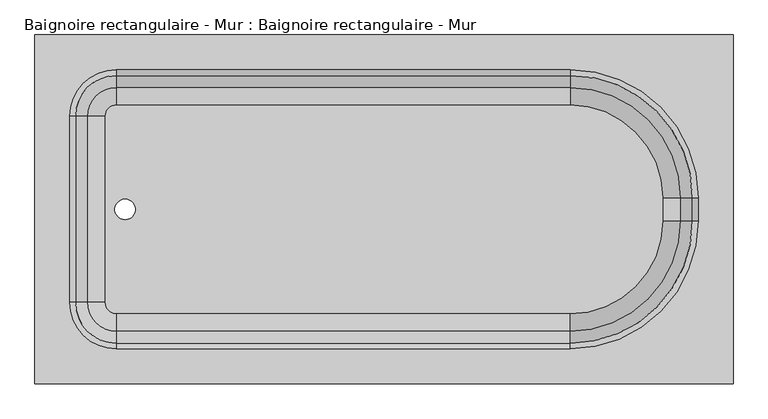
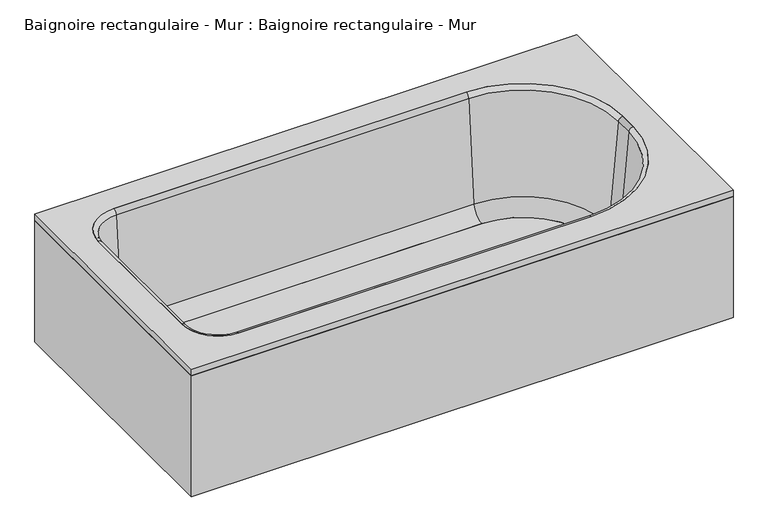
"""IFC4 building model written with IfcOpenShell, lengths in millimetres: flow terminal geometry, Baignoire rectangulaire - Mur : Baignoire rectangulaire - Mur."""

import ifcopenshell
import ifcopenshell.guid

model = None  # the IFC model being written
_history = None  # IfcOwnerHistory: only IFC2X3 demands one
_inside = {}  # id of a spatial element -> (the spatial element, [elements in it])
_under = {}  # id of a project, library or spatial element -> (it, [spatial elements below it])
_declared = {}  # id of a project -> (the project, [libraries it declares])
_typed = {}  # id of a type object -> (the type object, [elements of that type])
_made_of = {}  # id of a material, layer set ... -> (it, [elements and type objects made of it])


def new_model(schema):
    """Start an empty IFC model of exactly this schema.

    Asked for "IFC4X3", IfcOpenShell would pick the latest addendum, in which some entities
    have other attributes; the version numbers below select the first issue.
    IFC2X3 requires an IfcOwnerHistory on every rooted entity: one is made here for all.
    """
    global model, _history
    if schema == "IFC4X3":
        model = ifcopenshell.file(schema_version=(4, 3, 0, 0))
    else:
        model = ifcopenshell.file(schema=schema)
    _inside.clear()
    _under.clear()
    _declared.clear()
    _typed.clear()
    _made_of.clear()
    _history = None
    if model.schema == "IFC2X3":
        org = make("IfcOrganization", Name="unknown")
        user = make(
            "IfcPersonAndOrganization",
            ThePerson=make("IfcPerson", FamilyName="unknown"),
            TheOrganization=org,
        )
        app = make(
            "IfcApplication",
            ApplicationDeveloper=org,
            Version="unknown",
            ApplicationFullName="unknown",
            ApplicationIdentifier="unknown",
        )
        _history = make(
            "IfcOwnerHistory",
            OwningUser=user,
            OwningApplication=app,
            ChangeAction="ADDED",
            CreationDate=0,
        )
    return model


def make(cls, **values):
    """One entity of the class cls with the attributes given. An attribute that is None is left unset."""
    return model.create_entity(
        cls, **{name: value for name, value in values.items() if value is not None}
    )


def rooted(cls, **values):
    """An entity with a GlobalId (a new one), such as an element, a storey or a relation."""
    return make(cls, GlobalId=ifcopenshell.guid.new(), OwnerHistory=_history, **values)


def si_unit(unit_type, name, prefix=None):
    """IfcSIUnit, for example si_unit("LENGTHUNIT", "METRE", prefix="MILLI")."""
    return make("IfcSIUnit", UnitType=unit_type, Prefix=prefix, Name=name)


def assignment(units):
    """IfcUnitAssignment: the units of a project."""
    return None if units is None else make("IfcUnitAssignment", Units=units)


def point(xyz):
    """IfcCartesianPoint."""
    return None if xyz is None else make("IfcCartesianPoint", Coordinates=xyz)


def direction(xyz):
    """IfcDirection."""
    return None if xyz is None else make("IfcDirection", DirectionRatios=xyz)


def frame(location, z_axis=None, x_axis=None):
    """IfcAxis2Placement3D, a coordinate frame: its origin and axes. An axis left out is left unset."""
    return make(
        "IfcAxis2Placement3D",
        Location=point(location),
        Axis=direction(z_axis),
        RefDirection=direction(x_axis),
    )


def frame_2d(location, x_axis=None):
    """IfcAxis2Placement2D, a coordinate frame in the plane: its origin and x axis."""
    return make(
        "IfcAxis2Placement2D", Location=point(location), RefDirection=direction(x_axis)
    )


def origin():
    """The frame at (0, 0, 0) with its axes left unset."""
    return frame((0.0, 0.0, 0.0))


def origin_with_axes():
    """The frame at (0, 0, 0) with the z axis (0, 0, 1) and the x axis (1, 0, 0) written out."""
    return frame((0.0, 0.0, 0.0), z_axis=(0.0, 0.0, 1.0), x_axis=(1.0, 0.0, 0.0))


def place(relative_to, where):
    """IfcLocalPlacement: puts the frame where relative to a parent placement (None: the world)."""
    return make(
        "IfcLocalPlacement", PlacementRelTo=relative_to, RelativePlacement=where
    )


def context(
    kind, dimensions, precision=None, world=None, true_north=None, identifier=None
):
    """IfcGeometricRepresentationContext, for example the 3D "Model" context."""
    return make(
        "IfcGeometricRepresentationContext",
        ContextIdentifier=identifier,
        ContextType=kind,
        CoordinateSpaceDimension=dimensions,
        Precision=precision,
        WorldCoordinateSystem=world,
        TrueNorth=true_north,
    )


def project(units=None, contexts=None):
    """IfcProject with its units and contexts."""
    return rooted(
        "IfcProject",
        Name="project",
        RepresentationContexts=contexts,
        UnitsInContext=assignment(units),
    )


def spatial(cls, under=None, at=None, **own):
    """A site, building, storey or space (cls), placed at a placement, below another one or the project."""
    s = rooted(cls, ObjectPlacement=at, **own)
    if under is not None:
        _under.setdefault(under.id(), (under, []))[1].append(s)
    return s


def polyline(points):
    """IfcPolyline through the points."""
    return make("IfcPolyline", Points=[point(p) for p in points])


def circle_curve(where, radius):
    """IfcCircle in the frame where."""
    return make("IfcCircle", Position=where, Radius=radius)


def ellipse_curve(where, semi_axis1, semi_axis2):
    """IfcEllipse in the frame where."""
    return make(
        "IfcEllipse", Position=where, SemiAxis1=semi_axis1, SemiAxis2=semi_axis2
    )


def trimmed(basis, trim1, trim2, sense, master):
    """IfcTrimmedCurve: the piece of a basis curve between two trims."""
    return make(
        "IfcTrimmedCurve",
        BasisCurve=basis,
        Trim1=trim1,
        Trim2=trim2,
        SenseAgreement=sense,
        MasterRepresentation=master,
    )


def segment(curve, same_sense, transition):
    """IfcCompositeCurveSegment."""
    return make(
        "IfcCompositeCurveSegment",
        Transition=transition,
        SameSense=same_sense,
        ParentCurve=curve,
    )


def composite_curve(segments, self_intersect=None):
    """IfcCompositeCurve: segments joined end to end."""
    return make("IfcCompositeCurve", Segments=segments, SelfIntersect=self_intersect)


def outline(outer, holes=None, kind="AREA"):
    """IfcArbitraryClosedProfileDef: a profile drawn as a closed curve; with holes, ...WithVoids."""
    if holes is None:
        return make("IfcArbitraryClosedProfileDef", ProfileType=kind, OuterCurve=outer)
    return make(
        "IfcArbitraryProfileDefWithVoids",
        ProfileType=kind,
        OuterCurve=outer,
        InnerCurves=holes,
    )


def extrude(swept, where, along, depth):
    """IfcExtrudedAreaSolid: the profile swept, set in the frame where, extruded along a direction by depth."""
    return make(
        "IfcExtrudedAreaSolid",
        SweptArea=swept,
        Position=where,
        ExtrudedDirection=direction(along),
        Depth=depth,
    )


def shape(context_of_items, identifier, shape_type, items):
    """IfcShapeRepresentation: the items that make up one representation, for example the "Body"."""
    return make(
        "IfcShapeRepresentation",
        ContextOfItems=context_of_items,
        RepresentationIdentifier=identifier,
        RepresentationType=shape_type,
        Items=items,
    )


def source(mapping_origin, context_of_items, identifier, shape_type, items):
    """IfcRepresentationMap: a shape defined once, which mapped items show again and again."""
    return make(
        "IfcRepresentationMap",
        MappingOrigin=mapping_origin,
        MappedRepresentation=shape(context_of_items, identifier, shape_type, items),
    )


def transform(
    local_origin,
    x_axis=None,
    y_axis=None,
    z_axis=None,
    scale=None,
    scale2=None,
    scale3=None,
    uniform=True,
):
    """IfcCartesianTransformationOperator3D, or its non-uniform kind. x_axis, y_axis, z_axis: its Axis1, 2, 3."""
    if uniform:
        return make(
            "IfcCartesianTransformationOperator3D",
            Axis1=direction(x_axis),
            Axis2=direction(y_axis),
            LocalOrigin=point(local_origin),
            Scale=scale,
            Axis3=direction(z_axis),
        )
    return make(
        "IfcCartesianTransformationOperator3DnonUniform",
        Axis1=direction(x_axis),
        Axis2=direction(y_axis),
        LocalOrigin=point(local_origin),
        Scale=scale,
        Axis3=direction(z_axis),
        Scale2=scale2,
        Scale3=scale3,
    )


def mapped(mapping_source, mapping_target):
    """IfcMappedItem: shows the shape of a source again, moved by a transform."""
    return make(
        "IfcMappedItem", MappingSource=mapping_source, MappingTarget=mapping_target
    )


def made_of(thing, what):
    """Note that an element or type object is made of a material, layer set ...; save() writes the relation."""
    if what is not None:
        _made_of.setdefault(what.id(), (what, []))[1].append(thing)
    return thing


def element(
    cls,
    number,
    at=None,
    inside=None,
    cuts=None,
    type_object=None,
    material=None,
    context=None,
    identifier="Body",
    shape_type=None,
    held_by="IfcProductDefinitionShape",
    body=None,
    shapes=None,
    **own,
):
    """One element of the class cls, such as IfcWall. Its Tag is "e" and its number.

    at: its placement. inside: the storey or other place that contains it. cuts: it is an
    opening in that element (IfcRelVoidsElement). A single representation is given by context,
    identifier, shape_type and body (its items); several are given by shapes. held_by: the class
    of the entity that holds the representations. save() writes the other relations.
    """
    e = rooted(cls, Tag="e%d" % number, ObjectPlacement=at, **own)
    if body is not None:
        shapes = [shape(context, identifier, shape_type, body)]
    if shapes is not None:
        e.Representation = make(held_by, Representations=shapes)
    if inside is not None:
        _inside.setdefault(inside.id(), (inside, []))[1].append(e)
    if cuts is not None:
        rooted(
            "IfcRelVoidsElement", RelatingBuildingElement=cuts, RelatedOpeningElement=e
        )
    if type_object is not None:
        _typed.setdefault(type_object.id(), (type_object, []))[1].append(e)
    return made_of(e, material)


def aggregate(whole, parts):
    """IfcRelAggregates: a whole, such as a stair, and the parts it consists of."""
    return rooted("IfcRelAggregates", RelatingObject=whole, RelatedObjects=parts)


def save(model, path):
    """Write the relations noted so far, then the file.

    IfcRelAggregates (storeys below a building ...), IfcRelContainedInSpatialStructure (elements
    in a storey), IfcRelDefinesByType, IfcRelAssociatesMaterial and IfcRelDeclares: one each for
    every whole, place, type object, material and project.
    """
    for whole, parts in _under.values():
        aggregate(whole, parts)
    for where, things in _inside.values():
        rooted(
            "IfcRelContainedInSpatialStructure",
            RelatedElements=things,
            RelatingStructure=where,
        )
    for kind, things in _typed.values():
        rooted("IfcRelDefinesByType", RelatedObjects=things, RelatingType=kind)
    for what, things in _made_of.values():
        rooted("IfcRelAssociatesMaterial", RelatedObjects=things, RelatingMaterial=what)
    for by, libraries in _declared.values():
        rooted("IfcRelDeclares", RelatingContext=by, RelatedDefinitions=libraries)
    model.write(path)


def plane_surface(at):
    """IfcPlane: the flat surface through the origin of the frame at, square to its z axis."""
    return make("IfcPlane", Position=at)


def cylinder_surface(at, radius):
    """IfcCylindricalSurface: all points at the distance radius from the z axis of the frame at."""
    return make("IfcCylindricalSurface", Position=at, Radius=radius)


def revolved_surface(curve, axis_point, axis_direction):
    """IfcSurfaceOfRevolution: the curve turned about the line through axis_point along axis_direction."""
    return make(
        "IfcSurfaceOfRevolution",
        SweptCurve=make("IfcArbitraryOpenProfileDef", ProfileType="CURVE", Curve=curve),
        AxisPosition=make("IfcAxis1Placement", Location=point(axis_point), Axis=direction(axis_direction)),
    )


def advanced_brep(points, edges, surfaces, faces):
    """IfcAdvancedBrep: a solid bounded by faces that lie on surfaces and meet in shared edges.

    An edge is (start, end): straight between two places in points (the first is 0);
    or (start, end, curve); or (start, end, curve, False) where it runs against its curve.
    A face is (place in surfaces, loops), or (place, loops, False) where it looks against
    its surface's normal. A loop lists edges by number (the first is 1), with a minus sign
    where the edge is run from its end to its start. The first loop is the outer one.
    """
    corners = [point(p) for p in points]
    vertices = [make("IfcVertexPoint", VertexGeometry=c) for c in corners]
    made = []
    for start, end, *more in edges:
        made.append(
            make(
                "IfcEdgeCurve",
                EdgeStart=vertices[start],
                EdgeEnd=vertices[end],
                EdgeGeometry=more[0] if more else make("IfcPolyline", Points=[corners[start], corners[end]]),
                SameSense=more[1] if len(more) > 1 else True,
            )
        )
    hull = []
    for where, loops, *sense in faces:
        bounds = []
        for j, loop in enumerate(loops):
            ring = [make("IfcOrientedEdge", EdgeElement=made[abs(k) - 1], Orientation=k > 0) for k in loop]
            bounds.append(
                make(
                    "IfcFaceOuterBound" if j == 0 else "IfcFaceBound",
                    Bound=make("IfcEdgeLoop", EdgeList=ring),
                    Orientation=True,
                )
            )
        hull.append(make("IfcAdvancedFace", Bounds=bounds, FaceSurface=surfaces[where], SameSense=sense[0] if sense else True))
    return make("IfcAdvancedBrep", Outer=make("IfcClosedShell", CfsFaces=hull))


def baignoire_rectangulaire_mur_baignoire_rectangulaire_mur_52e2cdf1(model_context):
    return source(origin(), model_context, "Body", "SolidModel", [
        advanced_brep(
        [(-995.7544608, -634.2, 69.6929392), (-1021.9249722, -634.2, 368.8232535), (-932.8029687, -723.3220035, 368.8232535), (-932.8029687, -697.1514921, 69.6929392), (-957.7994428, -634.2, 34.913573), (-932.8029687, -659.1964741, 34.913573), (-957.7994428, -634.2, 15.863573), (-932.8029687, -659.1964741, 15.863573), (-1034.4029687, -634.2, 15.863573), (-932.8029687, -735.8, 15.863573), (-1034.4029687, -634.2, 380.0), (-932.8029687, -735.8, 380.0), (-995.7544608, -227.8, 69.6929392), (-1021.9249722, -227.8, 368.8232535), (-957.7994428, -227.8, 34.913573), (-957.7994428, -227.8, 15.863573), (-1034.4029687, -227.8, 15.863573), (-1034.4029687, -227.8, 380.0), (-932.8029687, -164.8485079, 69.6929392), (-932.8029687, -138.6779965, 368.8232535), (-932.8029687, -202.8035259, 34.913573), (-932.8029687, -202.8035259, 15.863573), (-932.8029687, -126.2, 15.863573), (-932.8029687, -126.2, 380.0), (58.7970313, -164.8485079, 69.6929392), (58.7970313, -138.6779965, 368.8232535), (58.7970313, -202.8035259, 34.913573), (58.7970313, -202.8035259, 15.863573), (58.7970313, -126.2, 15.863573), (58.7970313, -126.2, 380.0), (299.5485234, -405.6, 69.6929392), (325.7190348, -405.6, 368.8232535), (261.5935054, -405.6, 34.913573), (261.5935054, -405.6, 15.863573), (338.1970313, -405.6, 15.863573), (338.1970313, -405.6, 380.0), (299.5485234, -456.4, 69.6929392), (325.7190348, -456.4, 368.8232535), (261.5935054, -456.4, 34.913573), (261.5935054, -456.4, 15.863573), (338.1970313, -456.4, 15.863573), (338.1970313, -456.4, 380.0), (58.7970313, -697.1514921, 69.6929392), (58.7970313, -723.3220035, 368.8232535), (58.7970313, -659.1964741, 34.913573), (58.7970313, -659.1964741, 15.863573), (58.7970313, -735.8, 15.863573), (58.7970313, -735.8, 380.0)],
        [
            (0, 1),
            (1, 2, circle_curve(frame((-932.8029687, -634.2, 368.8232535), z_axis=(0.0, 0.0, 1.0), x_axis=(0.0, -1.0, 0.0)), 89.1220035)),
            (2, 3),
            (3, 0, circle_curve(frame((-932.8029687, -634.2, 69.6929392), z_axis=(0.0, 0.0, -1.0), x_axis=(0.0, -1.0, 0.0)), 62.9514921)),
            (4, 0, circle_curve(frame((-957.7994428, -634.2, 73.013573), z_axis=(0.0, 1.0, 0.0), x_axis=(1.0, 0.0, 0.0)), 38.1)),
            (3, 5, circle_curve(frame((-932.8029687, -659.1964741, 73.013573), z_axis=(1.0, 0.0, 0.0), x_axis=(0.0, 1.0, 0.0)), 38.1)),
            (5, 4, circle_curve(frame((-932.8029687, -634.2, 34.913573), z_axis=(0.0, 0.0, -1.0), x_axis=(0.0, -1.0, 0.0)), 24.9964741)),
            (6, 4),
            (5, 7),
            (7, 6, circle_curve(frame((-932.8029687, -634.2, 15.863573), z_axis=(0.0, 0.0, -1.0), x_axis=(0.0, -1.0, 0.0)), 24.9964741)),
            (8, 6),
            (7, 9),
            (9, 8, circle_curve(frame((-932.8029687, -634.2, 15.863573), z_axis=(0.0, 0.0, -1.0), x_axis=(0.0, -1.0, 0.0)), 101.6)),
            (10, 8),
            (9, 11),
            (11, 10, circle_curve(frame((-932.8029687, -634.2, 380.0), z_axis=(0.0, 0.0, -1.0), x_axis=(0.0, -1.0, 0.0)), 101.6)),
            (1, 10, circle_curve(frame((-1034.4029687, -634.2, 367.4462547), z_axis=(0.0, -1.0, 0.0), x_axis=(1.0, 0.0, 0.0)), 12.5537453)),
            (11, 2, circle_curve(frame((-932.8029687, -735.8, 367.4462547), z_axis=(-1.0, 0.0, 0.0), x_axis=(0.0, 1.0, 0.0)), 12.5537453)),
            (0, 12),
            (12, 13),
            (13, 1),
            (4, 14),
            (14, 12, circle_curve(frame((-957.7994428, -227.8, 73.013573), z_axis=(0.0, 1.0, 0.0), x_axis=(1.0, 0.0, 0.0)), 38.1)),
            (6, 15),
            (15, 14),
            (8, 16),
            (16, 15),
            (10, 17),
            (17, 16),
            (13, 17, circle_curve(frame((-1034.4029687, -227.8, 367.4462547), z_axis=(0.0, -1.0, 0.0), x_axis=(1.0, 0.0, 0.0)), 12.5537453)),
            (18, 19),
            (19, 13, circle_curve(frame((-932.8029687, -227.8, 368.8232535), z_axis=(0.0, 0.0, 1.0), x_axis=(-1.0, 0.0, 0.0)), 89.1220035)),
            (12, 18, circle_curve(frame((-932.8029687, -227.8, 69.6929392), z_axis=(0.0, 0.0, -1.0), x_axis=(-1.0, 0.0, 0.0)), 62.9514921)),
            (20, 18, circle_curve(frame((-932.8029687, -202.8035259, 73.013573), z_axis=(1.0, 0.0, 0.0), x_axis=(0.0, -1.0, 0.0)), 38.1)),
            (14, 20, circle_curve(frame((-932.8029687, -227.8, 34.913573), z_axis=(0.0, 0.0, -1.0), x_axis=(-1.0, 0.0, 0.0)), 24.9964741)),
            (21, 20),
            (15, 21, circle_curve(frame((-932.8029687, -227.8, 15.863573), z_axis=(0.0, 0.0, -1.0), x_axis=(-1.0, 0.0, 0.0)), 24.9964741)),
            (22, 21),
            (16, 22, circle_curve(frame((-932.8029687, -227.8, 15.863573), z_axis=(0.0, 0.0, -1.0), x_axis=(-1.0, 0.0, 0.0)), 101.6)),
            (23, 22),
            (17, 23, circle_curve(frame((-932.8029687, -227.8, 380.0), z_axis=(0.0, 0.0, -1.0), x_axis=(-1.0, 0.0, 0.0)), 101.6)),
            (19, 23, circle_curve(frame((-932.8029687, -126.2, 367.4462547), z_axis=(-1.0, 0.0, 0.0), x_axis=(0.0, -1.0, 0.0)), 12.5537453)),
            (18, 24),
            (24, 25),
            (25, 19),
            (20, 26),
            (26, 24, circle_curve(frame((58.7970313, -202.8035259, 73.013573), z_axis=(1.0, 0.0, 0.0), x_axis=(0.0, -1.0, 0.0)), 38.1)),
            (21, 27),
            (27, 26),
            (22, 28),
            (28, 27),
            (23, 29),
            (29, 28),
            (25, 29, circle_curve(frame((58.7970313, -126.2, 367.4462547), z_axis=(-1.0, 0.0, 0.0), x_axis=(0.0, -1.0, 0.0)), 12.5537453)),
            (30, 31),
            (31, 25, circle_curve(frame((58.7970313, -405.6, 368.8232535), z_axis=(0.0, 0.0, 1.0), x_axis=(0.0, 1.0, 0.0)), 266.9220035)),
            (24, 30, circle_curve(frame((58.7970313, -405.6, 69.6929392), z_axis=(0.0, 0.0, -1.0), x_axis=(0.0, 1.0, 0.0)), 240.7514921)),
            (32, 30, circle_curve(frame((261.5935054, -405.6, 73.013573), z_axis=(0.0, -1.0, 0.0), x_axis=(-1.0, 0.0, 0.0)), 38.1)),
            (26, 32, circle_curve(frame((58.7970313, -405.6, 34.913573), z_axis=(0.0, 0.0, -1.0), x_axis=(0.0, 1.0, 0.0)), 202.7964741)),
            (33, 32),
            (27, 33, circle_curve(frame((58.7970313, -405.6, 15.863573), z_axis=(0.0, 0.0, -1.0), x_axis=(0.0, 1.0, 0.0)), 202.7964741)),
            (34, 33),
            (28, 34, circle_curve(frame((58.7970313, -405.6, 15.863573), z_axis=(0.0, 0.0, -1.0), x_axis=(0.0, 1.0, 0.0)), 279.4)),
            (35, 34),
            (29, 35, circle_curve(frame((58.7970313, -405.6, 380.0), z_axis=(0.0, 0.0, -1.0), x_axis=(0.0, 1.0, 0.0)), 279.4)),
            (31, 35, circle_curve(frame((338.1970313, -405.6, 367.4462547), z_axis=(0.0, 1.0, 0.0), x_axis=(-1.0, 0.0, 0.0)), 12.5537453)),
            (30, 36),
            (36, 37),
            (37, 31),
            (32, 38),
            (38, 36, circle_curve(frame((261.5935054, -456.4, 73.013573), z_axis=(0.0, -1.0, 0.0), x_axis=(-1.0, 0.0, 0.0)), 38.1)),
            (33, 39),
            (39, 38),
            (34, 40),
            (40, 39),
            (35, 41),
            (41, 40),
            (37, 41, circle_curve(frame((338.1970313, -456.4, 367.4462547), z_axis=(0.0, 1.0, 0.0), x_axis=(-1.0, 0.0, 0.0)), 12.5537453)),
            (42, 43),
            (43, 37, circle_curve(frame((58.7970313, -456.4, 368.8232535), z_axis=(0.0, 0.0, 1.0), x_axis=(1.0, 0.0, 0.0)), 266.9220035)),
            (36, 42, circle_curve(frame((58.7970313, -456.4, 69.6929392), z_axis=(0.0, 0.0, -1.0), x_axis=(1.0, 0.0, 0.0)), 240.7514921)),
            (44, 42, circle_curve(frame((58.7970313, -659.1964741, 73.013573), z_axis=(-1.0, 0.0, 0.0), x_axis=(0.0, 1.0, 0.0)), 38.1)),
            (38, 44, circle_curve(frame((58.7970313, -456.4, 34.913573), z_axis=(0.0, 0.0, -1.0), x_axis=(1.0, 0.0, 0.0)), 202.7964741)),
            (45, 44),
            (39, 45, circle_curve(frame((58.7970313, -456.4, 15.863573), z_axis=(0.0, 0.0, -1.0), x_axis=(1.0, 0.0, 0.0)), 202.7964741)),
            (46, 45),
            (40, 46, circle_curve(frame((58.7970313, -456.4, 15.863573), z_axis=(0.0, 0.0, -1.0), x_axis=(1.0, 0.0, 0.0)), 279.4)),
            (47, 46),
            (41, 47, circle_curve(frame((58.7970313, -456.4, 380.0), z_axis=(0.0, 0.0, -1.0), x_axis=(1.0, 0.0, 0.0)), 279.4)),
            (43, 47, circle_curve(frame((58.7970313, -735.8, 367.4462547), z_axis=(1.0, 0.0, 0.0), x_axis=(0.0, 1.0, 0.0)), 12.5537453)),
            (42, 3),
            (2, 43),
            (44, 5),
            (45, 7),
            (46, 9),
            (47, 11),
        ],
        [
            revolved_surface(polyline([(-932.8029687, -723.3220035, 368.8232535), (-932.8029687, -697.1514921, 69.6929392)]), (-932.8029687, -634.2, 380.0), (0.0, 0.0, 1.0)),
            revolved_surface(trimmed(ellipse_curve(frame((-932.8029687, -659.1964741, 73.013573), z_axis=(1.0, 0.0, 0.0), x_axis=(0.0, 1.0, 0.0)), 38.1, 38.1), [point((-932.8029687, -697.1514921, 69.6929392))], [point((-932.8029687, -659.1964741, 34.913573))], True, "CARTESIAN"), (-932.8029687, -634.2, 380.0), (0.0, 0.0, 1.0)),
            revolved_surface(polyline([(-932.8029687, -659.1964741, 34.913572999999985), (-932.8029687, -659.1964741, 15.863572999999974)]), (-932.8029687, -634.2, 380.0), (0.0, 0.0, 1.0)),
            plane_surface(frame((-932.8029687, -634.2, 15.863573), z_axis=(0.0, 0.0, -1.0), x_axis=(0.0, -1.0, 0.0))),
            cylinder_surface(frame((-932.8029687, -634.2, 380.0), z_axis=(0.0, 0.0, 1.0), x_axis=(0.0, -1.0, 0.0)), 101.6),
            revolved_surface(trimmed(ellipse_curve(frame((-932.8029687, -735.8, 367.4462547), z_axis=(-1.0, 0.0, 0.0), x_axis=(0.0, 1.0, 0.0)), 12.5537453, 12.5537453), [point((-932.8029687, -735.8, 380.0))], [point((-932.8029687, -723.3220035, 368.8232535))], True, "CARTESIAN"), (-932.8029687, -634.2, 380.0), (0.0, 0.0, 1.0)),
            plane_surface(frame((-1021.9249722, -634.2, 368.8232535), z_axis=(0.9961946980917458, 0.0, 0.08715574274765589), x_axis=(0.0, 1.0, 0.0))),
            revolved_surface(polyline([(-919.6994427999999, -227.8, 73.013573), (-919.6994427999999, -634.2, 73.013573)]), (-957.7994428, -634.2, 73.013573), (0.0, 1.0, 0.0)),
            plane_surface(frame((-957.7994428, -634.2, 34.913573), z_axis=(1.0, 0.0, 0.0), x_axis=(0.0, 1.0, 0.0))),
            plane_surface(frame((-957.7994428, -634.2, 15.863573), z_axis=(0.0, 0.0, -1.0), x_axis=(0.0, 1.0, 0.0))),
            plane_surface(frame((-1034.4029687, -634.2, 15.863573), z_axis=(-1.0, 0.0, 0.0), x_axis=(0.0, 1.0, 0.0))),
            cylinder_surface(frame((-1034.4029687, -634.2, 367.4462547), z_axis=(0.0, -1.0, 0.0), x_axis=(1.0, 0.0, 0.0)), 12.5537453),
            revolved_surface(polyline([(-1021.9249722, -227.8, 368.8232535), (-995.7544608, -227.8, 69.6929392)]), (-932.8029687, -227.8, 380.0), (0.0, 0.0, 1.0)),
            revolved_surface(trimmed(ellipse_curve(frame((-957.7994428, -227.8, 73.013573), z_axis=(0.0, -1.0, 0.0), x_axis=(1.0, 0.0, 0.0)), 38.1, 38.1), [point((-995.7544608, -227.8, 69.6929392))], [point((-957.7994428, -227.8, 34.913573))], True, "CARTESIAN"), (-932.8029687, -227.8, 380.0), (0.0, 0.0, 1.0)),
            revolved_surface(polyline([(-957.7994428, -227.8, 34.913572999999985), (-957.7994428, -227.8, 15.863572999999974)]), (-932.8029687, -227.8, 380.0), (0.0, 0.0, 1.0)),
            plane_surface(frame((-932.8029687, -227.8, 15.863573), z_axis=(0.0, 0.0, -1.0), x_axis=(-1.0, 0.0, 0.0))),
            cylinder_surface(frame((-932.8029687, -227.8, 380.0), z_axis=(0.0, 0.0, 1.0), x_axis=(-1.0, 0.0, 0.0)), 101.6),
            revolved_surface(trimmed(ellipse_curve(frame((-1034.4029687, -227.8, 367.4462547), z_axis=(0.0, 1.0, 0.0), x_axis=(1.0, 0.0, 0.0)), 12.5537453, 12.5537453), [point((-1034.4029687, -227.8, 380.0))], [point((-1021.9249722, -227.8, 368.8232535))], True, "CARTESIAN"), (-932.8029687, -227.8, 380.0), (0.0, 0.0, 1.0)),
            plane_surface(frame((-932.8029687, -138.6779965, 368.8232535), z_axis=(0.0, -0.9961946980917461, 0.08715574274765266), x_axis=(1.0, 0.0, 0.0))),
            revolved_surface(polyline([(58.79703129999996, -240.9035259, 73.013573), (-932.8029687, -240.9035259, 73.013573)]), (-932.8029687, -202.8035259, 73.013573), (1.0, 0.0, 0.0)),
            plane_surface(frame((-932.8029687, -202.8035259, 34.913573), z_axis=(0.0, -1.0, 0.0), x_axis=(1.0, 0.0, 0.0))),
            plane_surface(frame((-932.8029687, -202.8035259, 15.863573), z_axis=(0.0, 0.0, -1.0), x_axis=(1.0, 0.0, 0.0))),
            plane_surface(frame((-932.8029687, -126.2, 15.863573), z_axis=(0.0, 1.0, 0.0), x_axis=(1.0, 0.0, 0.0))),
            cylinder_surface(frame((-932.8029687, -126.2, 367.4462547), z_axis=(-1.0, 0.0, 0.0), x_axis=(0.0, -1.0, 0.0)), 12.5537453),
            revolved_surface(polyline([(58.7970313, -138.6779965, 368.8232535), (58.7970313, -164.8485079, 69.6929392)]), (58.7970313, -405.6, 380.0), (0.0, 0.0, 1.0)),
            revolved_surface(trimmed(ellipse_curve(frame((58.7970313, -202.8035259, 73.013573), z_axis=(-1.0, 0.0, 0.0), x_axis=(0.0, -1.0, 0.0)), 38.1, 38.1), [point((58.7970313, -164.8485079, 69.6929392))], [point((58.7970313, -202.8035259, 34.913573))], True, "CARTESIAN"), (58.7970313, -405.6, 380.0), (0.0, 0.0, 1.0)),
            revolved_surface(polyline([(58.7970313, -202.8035259, 34.913572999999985), (58.7970313, -202.8035259, 15.863572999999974)]), (58.7970313, -405.6, 380.0), (0.0, 0.0, 1.0)),
            plane_surface(frame((58.7970313, -405.6, 15.863573), z_axis=(0.0, 0.0, -1.0), x_axis=(0.0, 1.0, 0.0))),
            cylinder_surface(frame((58.7970313, -405.6, 380.0), z_axis=(0.0, 0.0, 1.0), x_axis=(0.0, 1.0, 0.0)), 279.4),
            revolved_surface(trimmed(ellipse_curve(frame((58.7970313, -126.2, 367.4462547), z_axis=(1.0, 0.0, 0.0), x_axis=(0.0, -1.0, 0.0)), 12.5537453, 12.5537453), [point((58.7970313, -126.2, 380.0))], [point((58.7970313, -138.6779965, 368.8232535))], True, "CARTESIAN"), (58.7970313, -405.6, 380.0), (0.0, 0.0, 1.0)),
            plane_surface(frame((325.7190348, -405.6, 368.8232535), z_axis=(-0.9961946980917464, 0.0, 0.08715574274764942), x_axis=(0.0, -1.0, 0.0))),
            revolved_surface(polyline([(223.49350540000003, -456.4, 73.013573), (223.49350540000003, -405.6, 73.013573)]), (261.5935054, -405.6, 73.013573), (0.0, -1.0, 0.0)),
            plane_surface(frame((261.5935054, -405.6, 34.913573), z_axis=(-1.0, 0.0, 0.0), x_axis=(0.0, -1.0, 0.0))),
            plane_surface(frame((261.5935054, -405.6, 15.863573), z_axis=(0.0, 0.0, -1.0), x_axis=(0.0, -1.0, 0.0))),
            plane_surface(frame((338.1970313, -405.6, 15.863573), z_axis=(1.0, 0.0, 0.0), x_axis=(0.0, -1.0, 0.0))),
            cylinder_surface(frame((338.1970313, -405.6, 367.4462547), z_axis=(0.0, 1.0, 0.0), x_axis=(-1.0, 0.0, 0.0)), 12.5537453),
            revolved_surface(polyline([(325.7190348, -456.4, 368.8232535), (299.5485234, -456.4, 69.6929392)]), (58.7970313, -456.4, 380.0), (0.0, 0.0, 1.0)),
            revolved_surface(trimmed(ellipse_curve(frame((261.5935054, -456.4, 73.013573), z_axis=(0.0, 1.0, 0.0), x_axis=(-1.0, 0.0, 0.0)), 38.1, 38.1), [point((299.5485234, -456.4, 69.6929392))], [point((261.5935054, -456.4, 34.913573))], True, "CARTESIAN"), (58.7970313, -456.4, 380.0), (0.0, 0.0, 1.0)),
            revolved_surface(polyline([(261.5935054, -456.4, 34.913572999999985), (261.5935054, -456.4, 15.863572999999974)]), (58.7970313, -456.4, 380.0), (0.0, 0.0, 1.0)),
            plane_surface(frame((58.7970313, -456.4, 15.863573), z_axis=(0.0, 0.0, -1.0), x_axis=(1.0, 0.0, 0.0))),
            cylinder_surface(frame((58.7970313, -456.4, 380.0), z_axis=(0.0, 0.0, 1.0), x_axis=(1.0, 0.0, 0.0)), 279.4),
            revolved_surface(trimmed(ellipse_curve(frame((338.1970313, -456.4, 367.4462547), z_axis=(0.0, -1.0, 0.0), x_axis=(-1.0, 0.0, 0.0)), 12.5537453, 12.5537453), [point((338.1970313, -456.4, 380.0))], [point((325.7190348, -456.4, 368.8232535))], True, "CARTESIAN"), (58.7970313, -456.4, 380.0), (0.0, 0.0, 1.0)),
            plane_surface(frame((58.7970313, -723.3220035, 368.8232535), z_axis=(0.0, 0.9961946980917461, 0.08715574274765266), x_axis=(-1.0, 0.0, 0.0))),
            revolved_surface(polyline([(-932.8029687, -621.0964741, 73.013573), (58.7970313, -621.0964741, 73.013573)]), (58.7970313, -659.1964741, 73.013573), (-1.0, 0.0, 0.0)),
            plane_surface(frame((58.7970313, -659.1964741, 34.913573), z_axis=(0.0, 1.0, 0.0), x_axis=(-1.0, 0.0, 0.0))),
            plane_surface(frame((58.7970313, -659.1964741, 15.863573), z_axis=(0.0, 0.0, -1.0), x_axis=(-1.0, 0.0, 0.0))),
            plane_surface(frame((58.7970313, -735.8, 15.863573), z_axis=(0.0, -1.0, 0.0), x_axis=(-1.0, 0.0, 0.0))),
            cylinder_surface(frame((58.7970313, -735.8, 367.4462547), z_axis=(1.0, 0.0, 0.0), x_axis=(0.0, 1.0, 0.0)), 12.5537453),
        ],
        [
            (0, [[1, 2, 3, 4]]),
            (1, [[5, -4, 6, 7]]),
            (2, [[8, -7, 9, 10]]),
            (3, [[11, -10, 12, 13]]),
            (4, [[14, -13, 15, 16]]),
            (5, [[17, -16, 18, -2]]),
            (6, [[19, 20, 21, -1]]),
            (7, [[22, 23, -19, -5]]),
            (8, [[24, 25, -22, -8]]),
            (9, [[26, 27, -24, -11]]),
            (10, [[28, 29, -26, -14]]),
            (11, [[-21, 30, -28, -17]]),
            (12, [[31, 32, -20, 33]]),
            (13, [[34, -33, -23, 35]]),
            (14, [[36, -35, -25, 37]]),
            (15, [[38, -37, -27, 39]]),
            (16, [[40, -39, -29, 41]]),
            (17, [[42, -41, -30, -32]]),
            (18, [[43, 44, 45, -31]]),
            (19, [[46, 47, -43, -34]]),
            (20, [[48, 49, -46, -36]]),
            (21, [[50, 51, -48, -38]]),
            (22, [[52, 53, -50, -40]]),
            (23, [[-45, 54, -52, -42]]),
            (24, [[55, 56, -44, 57]]),
            (25, [[58, -57, -47, 59]]),
            (26, [[60, -59, -49, 61]]),
            (27, [[62, -61, -51, 63]]),
            (28, [[64, -63, -53, 65]]),
            (29, [[66, -65, -54, -56]]),
            (30, [[67, 68, 69, -55]]),
            (31, [[70, 71, -67, -58]]),
            (32, [[72, 73, -70, -60]]),
            (33, [[74, 75, -72, -62]]),
            (34, [[76, 77, -74, -64]]),
            (35, [[-69, 78, -76, -66]]),
            (36, [[79, 80, -68, 81]]),
            (37, [[82, -81, -71, 83]]),
            (38, [[84, -83, -73, 85]]),
            (39, [[86, -85, -75, 87]]),
            (40, [[88, -87, -77, 89]]),
            (41, [[90, -89, -78, -80]]),
            (42, [[91, -3, 92, -79]]),
            (43, [[93, -6, -91, -82]]),
            (44, [[94, -9, -93, -84]]),
            (45, [[95, -12, -94, -86]]),
            (46, [[96, -15, -95, -88]]),
            (47, [[-92, -18, -96, -90]]),
        ],
    ),
        extrude(outline(composite_curve([segment(polyline([(58.7970313, -659.1964741), (-932.8029687, -659.1964741)]), True, "CONTINUOUS"), segment(trimmed(circle_curve(frame_2d((-932.8029687, -634.2)), 24.9964741), [point((-932.8029687, -659.1964741))], [point((-957.7994428, -634.2))], False, "CARTESIAN"), True, "CONTINUOUS"), segment(polyline([(-957.7994428, -634.2), (-957.7994428, -227.8)]), True, "CONTINUOUS"), segment(trimmed(circle_curve(frame_2d((-932.8029687, -227.8)), 24.9964741), [point((-957.7994428, -227.8))], [point((-932.8029687, -202.8035259))], False, "CARTESIAN"), True, "CONTINUOUS"), segment(polyline([(-932.8029687, -202.8035259), (58.7970313, -202.8035259)]), True, "CONTINUOUS"), segment(trimmed(circle_curve(frame_2d((58.7970313, -405.6)), 202.7964741), [point((58.7970313, -202.8035259))], [point((261.5935054, -405.6))], False, "CARTESIAN"), True, "CONTINUOUS"), segment(polyline([(261.5935054, -405.6), (261.5935054, -456.4)]), True, "CONTINUOUS"), segment(trimmed(circle_curve(frame_2d((58.7970313, -456.4)), 202.7964741), [point((261.5935054, -456.4))], [point((58.7970313, -659.1964741))], False, "CARTESIAN"), True, "CONTINUOUS")], self_intersect=False), holes=[composite_curve([segment(trimmed(circle_curve(frame_2d((-913.5971625, -431.0)), 22.225), [point((-913.5971625, -453.225))], [point((-913.5971625, -408.775))], True, "CARTESIAN"), True, "CONTINUOUS"), segment(trimmed(circle_curve(frame_2d((-913.5971625, -431.0)), 22.225), [point((-913.5971625, -408.775))], [point((-913.5971625, -453.225))], True, "CARTESIAN"), True, "CONTINUOUS")], self_intersect=False)]), frame((0.0, 0.0, 15.863573), z_axis=(0.0, 0.0, 1.0), x_axis=(1.0, 0.0, 0.0)), (0.0, 0.0, 1.0), 19.05),
        extrude(outline(polyline([(414.3970313, -812.0), (-1110.6029687, -812.0), (-1110.6029687, -50.0), (414.3970313, -50.0), (414.3970313, -812.0)]), holes=[polyline([(395.3470313, -792.95), (395.3470313, -69.05), (-1091.5529687, -69.05), (-1091.5529687, -792.95), (395.3470313, -792.95)])]), origin_with_axes(), (0.0, 0.0, 1.0), 360.95),
        extrude(outline(polyline([(414.3970313, -812.0), (-1110.6029687, -812.0), (-1110.6029687, -50.0), (414.3970313, -50.0), (414.3970313, -812.0)]), holes=[composite_curve([segment(polyline([(-932.8029687, -735.8), (58.7970313, -735.8)]), True, "CONTINUOUS"), segment(trimmed(circle_curve(frame_2d((58.7970313, -456.4)), 279.4), [point((58.7970313, -735.8))], [point((338.1970313, -456.4))], True, "CARTESIAN"), True, "CONTINUOUS"), segment(polyline([(338.1970313, -456.4), (338.1970313, -405.6)]), True, "CONTINUOUS"), segment(trimmed(circle_curve(frame_2d((58.7970313, -405.6)), 279.4), [point((338.1970313, -405.6))], [point((58.7970313, -126.2))], True, "CARTESIAN"), True, "CONTINUOUS"), segment(polyline([(58.7970313, -126.2), (-932.8029687, -126.2)]), True, "CONTINUOUS"), segment(trimmed(circle_curve(frame_2d((-932.8029687, -227.8)), 101.6), [point((-932.8029687, -126.2))], [point((-1034.4029687, -227.8))], True, "CARTESIAN"), True, "CONTINUOUS"), segment(polyline([(-1034.4029687, -227.8), (-1034.4029687, -634.2)]), True, "CONTINUOUS"), segment(trimmed(circle_curve(frame_2d((-932.8029687, -634.2)), 101.6), [point((-1034.4029687, -634.2))], [point((-932.8029687, -735.8))], True, "CARTESIAN"), True, "CONTINUOUS")], self_intersect=False)]), frame((0.0, 0.0, 360.95), z_axis=(0.0, 0.0, 1.0), x_axis=(1.0, 0.0, 0.0)), (0.0, 0.0, 1.0), 19.05),
    ])


if __name__ == "__main__":
    model = new_model("IFC4")
    model_context = context("Model", 3, world=origin())
    ifc_project = project(units=[si_unit("LENGTHUNIT", "METRE", prefix="MILLI")], contexts=[model_context])
    site = spatial("IfcSite", under=ifc_project)
    building = spatial("IfcBuilding", under=site)
    placement = place(None, origin())
    baignoire_rectangulaire_mur_baignoire_rectangulaire_mur_shape = baignoire_rectangulaire_mur_baignoire_rectangulaire_mur_52e2cdf1(model_context)
    element("IfcFlowTerminal", 1, ObjectType="Baignoire rectangulaire - Mur : Baignoire rectangulaire - Mur", at=placement, inside=building, context=model_context, shape_type="MappedRepresentation", body=[
        mapped(baignoire_rectangulaire_mur_baignoire_rectangulaire_mur_shape, transform((0.0, 0.0, 0.0), x_axis=(1.0, 0.0, 0.0), y_axis=(0.0, 1.0, 0.0), z_axis=(0.0, 0.0, 1.0))),
    ])
    save(model, "model.ifc")
